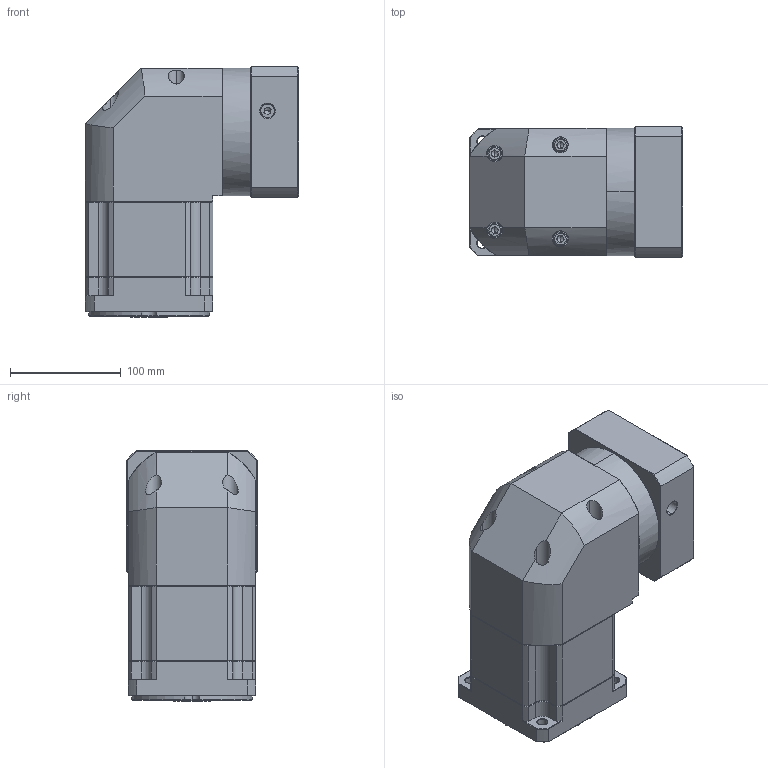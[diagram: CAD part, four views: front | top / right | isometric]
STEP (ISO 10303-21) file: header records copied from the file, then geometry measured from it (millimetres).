
FILE_DESCRIPTION (( 'STEP AP214' ), '1' );
FILE_NAME ('ZBR115A-K25-L2-P2-22-95-115-M8.step', '2023-08-26T12:44:24', ( '' ), ( '' ), 'SwSTEP 2.0', 'SolidWorks 2016', '' );
FILE_SCHEMA (( 'AUTOMOTIVE_DESIGN' ));
Length unit declared in the file: millimetre
Products named in the file (1): ZBR115A-K25-L2-P2-22-95-115-M8
Bounding box: 192.4 x 118 x 226.5 mm (x, y, z)
Volume: 3244976 mm3; surface area: 256333.7 mm2
Topology: 6 solids, 6 shells, 2325 faces, 6090 edges, 3869 vertices
Faces by surface type: plane 1132, bspline 416, cylinder 406, cone 363, torus 8
Entity records: 122698 total; most frequent: CARTESIAN_POINT 43290, ORIENTED_EDGE 12124, DIRECTION 9598, EDGE_CURVE 6062, LINE 3938, VECTOR 3938, VERTEX_POINT 3869, AXIS2_PLACEMENT_3D 2830
